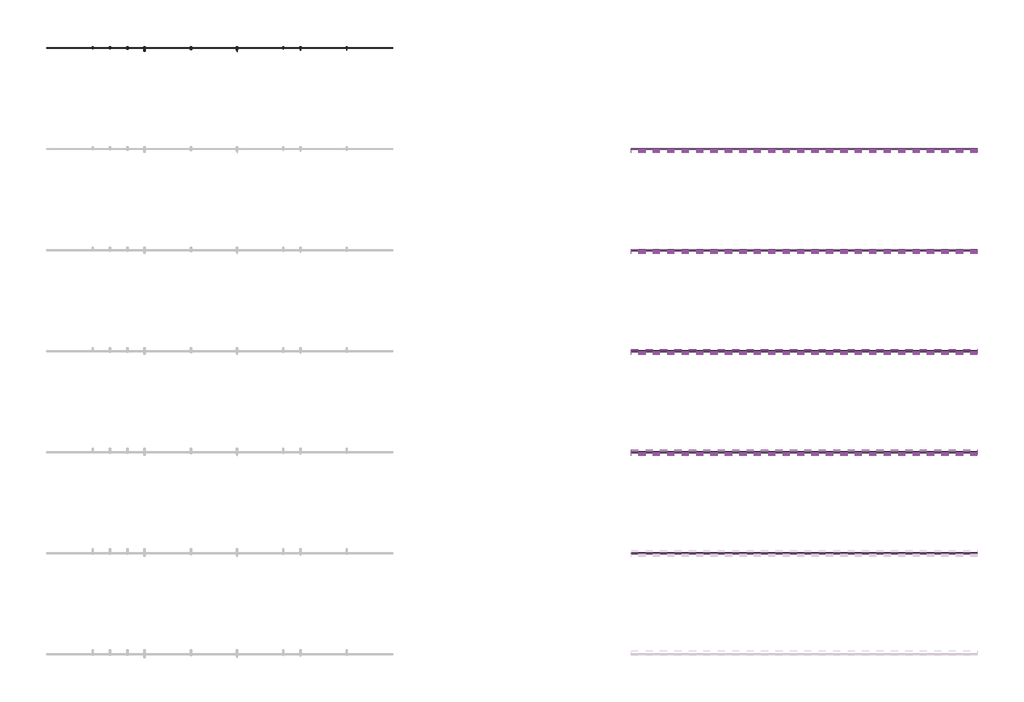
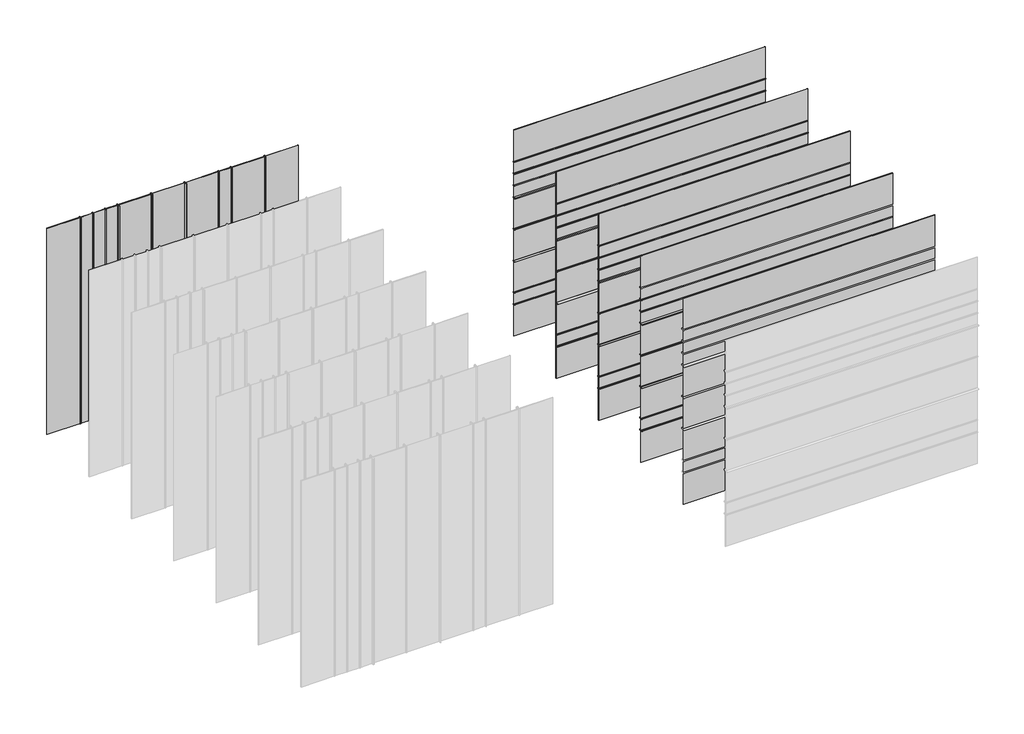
# One storey, part 4 of 4: 55 plates, 40 members.
"""IFC4 building model written with IfcOpenShell, lengths in millimetres."""

from ifc_helpers import new_model, si_unit, origin, place, context, project, spatial, transform, mapped, element, save
from components import rectangular_mullion_6b61430f, rectangular_mullion_28084158, rectangular_mullion_60bf5739, rectangular_mullion_a78560a7, rectangular_mullion_7672b1c6, rectangular_mullion_1ab9979a, rectangular_mullion_508c35ca, rectangular_mullion_6fd50402, rectangular_mullion_37283115, rectangular_mullion_c953b7b2, rectangular_mullion_8f5d7e34, rectangular_mullion_b8634e93, rectangular_mullion_21c236ed, rectangular_mullion_a2cae820, rectangular_mullion_59970314, rectangular_mullion_789dde8b, rectangular_mullion_764dd3d6, rectangular_mullion_9a702a02, rectangular_mullion_c56df970, rectangular_mullion_8414ca5e, rectangular_mullion_b691037a, rectangular_mullion_69cb2042, rectangular_mullion_3d3ca6bd, rectangular_mullion_6da18841, rectangular_mullion_dd002d8b, rectangular_mullion_8afb06d2, rectangular_mullion_d05109a3, rectangular_mullion_47334e2f, rectangular_mullion_0ad46ab6, rectangular_mullion_7b420ca9, rectangular_mullion_ec071061, rectangular_mullion_dfd6f06b, rectangular_mullion_7b030d2f, rectangular_mullion_5baca6db, rectangular_mullion_6baa7c06, rectangular_mullion_7da34c89, rectangular_mullion_f86160bf, rectangular_mullion_92fd8a44, rectangular_mullion_52d2da8f, system_panel_glazed_5a8f3fa4, system_panel_glazed_dbcdabc9, system_panel_glazed_78f67ebd, system_panel_glazed_138f9669, system_panel_glazed_1a993f0c, system_panel_glazed_b61b2489, system_panel_glazed_590bdfaf, system_panel_glazed_47dfef42, system_panel_glazed_745bbd44

model = new_model("IFC4")

# Units and contexts
model_context = context("Model", 3, world=origin())
ifc_project = project(units=[si_unit("LENGTHUNIT", "METRE", prefix="MILLI")], contexts=[model_context])

# Site, building, storey
site = spatial("IfcSite", under=ifc_project)
building = spatial("IfcBuilding", under=site)
storey = spatial("IfcBuildingStorey", under=building, Name="REY 01 - Overview Mullions", Elevation=0.0)

# Members
placement = place(None, origin())
rectangular_mullion_shape = rectangular_mullion_6b61430f(model_context)
element("IfcMember", 1, ObjectType="Rectangular Mullion : Reynaers_CW-50_Mullion-Transom_Vertical_41.5mm_Facecap-02A", at=placement, inside=storey, context=model_context, shape_type="MappedRepresentation", body=[
    mapped(rectangular_mullion_shape, transform((-14129.591144, 2399.6459989, 0.0), x_axis=(-1.0, 0.0, 0.0), y_axis=(0.0, 1.0, 0.0), z_axis=(0.0, 0.0, -1.0))),
])
rectangular_mullion_2_shape = rectangular_mullion_28084158(model_context)
element("IfcMember", 2, ObjectType="Rectangular Mullion : Reynaers_CW-50_Mullion-Transom_Vertical_41.5mm_Facecap-02B", at=placement, inside=storey, context=model_context, shape_type="MappedRepresentation", body=[
    mapped(rectangular_mullion_2_shape, transform((-13529.591144, 2399.6459989, 0.0), x_axis=(-1.0, 0.0, 0.0), y_axis=(0.0, 1.0, 0.0), z_axis=(0.0, 0.0, -1.0))),
])
rectangular_mullion_3_shape = rectangular_mullion_60bf5739(model_context)
element("IfcMember", 3, ObjectType="Rectangular Mullion : Reynaers_CW-50_Mullion-Transom_Vertical_41.5mm_Facecap-02C", at=placement, inside=storey, context=model_context, shape_type="MappedRepresentation", body=[
    mapped(rectangular_mullion_3_shape, transform((-12929.591144, 2399.6459989, 0.0), x_axis=(-1.0, 0.0, 0.0), y_axis=(0.0, 1.0, 0.0), z_axis=(0.0, 0.0, -1.0))),
])
rectangular_mullion_4_shape = rectangular_mullion_a78560a7(model_context)
element("IfcMember", 4, ObjectType="Rectangular Mullion : Reynaers_CW-50_Mullion-Transom_Vertical_41.5mm_Facecap-02D", at=placement, inside=storey, context=model_context, shape_type="MappedRepresentation", body=[
    mapped(rectangular_mullion_4_shape, transform((-12329.591144, 2399.6459989, 0.0), x_axis=(-1.0, 0.0, 0.0), y_axis=(0.0, 1.0, 0.0), z_axis=(0.0, 0.0, -1.0))),
])
rectangular_mullion_5_shape = rectangular_mullion_7672b1c6(model_context)
element("IfcMember", 5, ObjectType="Rectangular Mullion : Reynaers_CW-50_Mullion-Transom_Vertical_41.5mm_Facecap-03", at=placement, inside=storey, context=model_context, shape_type="MappedRepresentation", body=[
    mapped(rectangular_mullion_5_shape, transform((-10729.591144, 2399.6459989, 0.0), x_axis=(-1.0, 0.0, 0.0), y_axis=(0.0, 1.0, 0.0), z_axis=(0.0, 0.0, -1.0))),
])
rectangular_mullion_6_shape = rectangular_mullion_1ab9979a(model_context)
element("IfcMember", 6, ObjectType="Rectangular Mullion : Reynaers_CW-50_Mullion-Transom_Vertical_41.5mm_Facecap-05", at=placement, inside=storey, context=model_context, shape_type="MappedRepresentation", body=[
    mapped(rectangular_mullion_6_shape, transform((-9129.591144, 2399.6459989, 0.0), x_axis=(-1.0, 0.0, 0.0), y_axis=(0.0, 1.0, 0.0), z_axis=(0.0, 0.0, -1.0))),
])
rectangular_mullion_7_shape = rectangular_mullion_508c35ca(model_context)
element("IfcMember", 7, ObjectType="Rectangular Mullion : Reynaers_CW-50_Mullion-Transom_Vertical_41.5mm_Facecap-06A", at=placement, inside=storey, context=model_context, shape_type="MappedRepresentation", body=[
    mapped(rectangular_mullion_7_shape, transform((-7529.591144, 2399.6459989, 0.0), x_axis=(-1.0, 0.0, 0.0), y_axis=(0.0, 1.0, 0.0), z_axis=(0.0, 0.0, -1.0))),
])
rectangular_mullion_8_shape = rectangular_mullion_6fd50402(model_context)
element("IfcMember", 8, ObjectType="Rectangular Mullion : Reynaers_CW-50_Mullion-Transom_Vertical_41.5mm_Facecap-06B", at=placement, inside=storey, context=model_context, shape_type="MappedRepresentation", body=[
    mapped(rectangular_mullion_8_shape, transform((-6929.591144, 2399.6459989, 0.0), x_axis=(-1.0, 0.0, 0.0), y_axis=(0.0, 1.0, 0.0), z_axis=(0.0, 0.0, -1.0))),
])
element("IfcMember", 9, ObjectType="Rectangular Mullion : Reynaers_CW-50_Mullion-Transom_Vertical_41.5mm_Facecap-06B", at=placement, inside=storey, context=model_context, shape_type="MappedRepresentation", body=[
    mapped(rectangular_mullion_8_shape, transform((-5329.591144, 2399.6459989, 0.0), x_axis=(-1.0, 0.0, 0.0), y_axis=(0.0, 1.0, 0.0), z_axis=(0.0, 0.0, -1.0))),
])
rectangular_mullion_9_shape = rectangular_mullion_37283115(model_context)
element("IfcMember", 10, ObjectType="Rectangular Mullion : Reynaers_CW-50_Mullion-Transom_Horizontal_5mm_Facecap-02A", at=placement, inside=storey, context=model_context, shape_type="MappedRepresentation", body=[
    mapped(rectangular_mullion_9_shape, transform((4520.408856, -1100.3540011, 8800.0), x_axis=(0.0, 0.0, 1.0), y_axis=(0.0, 1.0, 0.0), z_axis=(-1.0, 0.0, 0.0))),
])
rectangular_mullion_10_shape = rectangular_mullion_c953b7b2(model_context)
element("IfcMember", 11, ObjectType="Rectangular Mullion : Reynaers_CW-50_Mullion-Transom_Horizontal_5mm_Facecap-02B", at=placement, inside=storey, context=model_context, shape_type="MappedRepresentation", body=[
    mapped(rectangular_mullion_10_shape, transform((4520.408856, -1100.3540011, 8200.0), x_axis=(0.0, 0.0, 1.0), y_axis=(0.0, 1.0, 0.0), z_axis=(-1.0, 0.0, 0.0))),
])
rectangular_mullion_11_shape = rectangular_mullion_8f5d7e34(model_context)
element("IfcMember", 12, ObjectType="Rectangular Mullion : Reynaers_CW-50_Mullion-Transom_Horizontal_5mm_Facecap-02C", at=placement, inside=storey, context=model_context, shape_type="MappedRepresentation", body=[
    mapped(rectangular_mullion_11_shape, transform((4520.408856, -1100.3540011, 7600.0), x_axis=(0.0, 0.0, 1.0), y_axis=(0.0, 1.0, 0.0), z_axis=(-1.0, 0.0, 0.0))),
])
rectangular_mullion_12_shape = rectangular_mullion_b8634e93(model_context)
element("IfcMember", 13, ObjectType="Rectangular Mullion : Reynaers_CW-50_Mullion-Transom_Horizontal_5mm_Facecap-02D", at=placement, inside=storey, context=model_context, shape_type="MappedRepresentation", body=[
    mapped(rectangular_mullion_12_shape, transform((4520.408856, -1100.3540011, 7000.0), x_axis=(0.0, 0.0, 1.0), y_axis=(0.0, 1.0, 0.0), z_axis=(-1.0, 0.0, 0.0))),
])
rectangular_mullion_13_shape = rectangular_mullion_21c236ed(model_context)
element("IfcMember", 14, ObjectType="Rectangular Mullion : Reynaers_CW-50_Mullion-Transom_Horizontal_23.9mm_Facecap-02A", at=placement, inside=storey, context=model_context, shape_type="MappedRepresentation", body=[
    mapped(rectangular_mullion_13_shape, transform((4520.408856, -4600.3540011, 8800.0), x_axis=(0.0, 0.0, 1.0), y_axis=(0.0, 1.0, 0.0), z_axis=(-1.0, 0.0, 0.0))),
])
rectangular_mullion_14_shape = rectangular_mullion_a2cae820(model_context)
element("IfcMember", 15, ObjectType="Rectangular Mullion : Reynaers_CW-50_Mullion-Transom_Horizontal_23.9mm_Facecap-02B", at=placement, inside=storey, context=model_context, shape_type="MappedRepresentation", body=[
    mapped(rectangular_mullion_14_shape, transform((4520.408856, -4600.3540011, 8200.0), x_axis=(0.0, 0.0, 1.0), y_axis=(0.0, 1.0, 0.0), z_axis=(-1.0, 0.0, 0.0))),
])
rectangular_mullion_15_shape = rectangular_mullion_59970314(model_context)
element("IfcMember", 16, ObjectType="Rectangular Mullion : Reynaers_CW-50_Mullion-Transom_Horizontal_23.9mm_Facecap-02C", at=placement, inside=storey, context=model_context, shape_type="MappedRepresentation", body=[
    mapped(rectangular_mullion_15_shape, transform((4520.408856, -4600.3540011, 7600.0), x_axis=(0.0, 0.0, 1.0), y_axis=(0.0, 1.0, 0.0), z_axis=(-1.0, 0.0, 0.0))),
])
rectangular_mullion_16_shape = rectangular_mullion_789dde8b(model_context)
element("IfcMember", 17, ObjectType="Rectangular Mullion : Reynaers_CW-50_Mullion-Transom_Horizontal_23.9mm_Facecap-02D", at=placement, inside=storey, context=model_context, shape_type="MappedRepresentation", body=[
    mapped(rectangular_mullion_16_shape, transform((4520.408856, -4600.3540011, 7000.0), x_axis=(0.0, 0.0, 1.0), y_axis=(0.0, 1.0, 0.0), z_axis=(-1.0, 0.0, 0.0))),
])
rectangular_mullion_17_shape = rectangular_mullion_764dd3d6(model_context)
element("IfcMember", 18, ObjectType="Rectangular Mullion : Reynaers_CW-50_Mullion-Transom_Horizontal_23.9mm_Facecap-06B", at=placement, inside=storey, context=model_context, shape_type="MappedRepresentation", body=[
    mapped(rectangular_mullion_17_shape, transform((4520.408856, -4600.3540011, 1600.0), x_axis=(0.0, 0.0, 1.0), y_axis=(0.0, 1.0, 0.0), z_axis=(-1.0, 0.0, 0.0))),
])
rectangular_mullion_18_shape = rectangular_mullion_9a702a02(model_context)
element("IfcMember", 19, ObjectType="Rectangular Mullion : Reynaers_CW-50_Mullion-Transom_Horizontal_23.9mm_Facecap-06A", at=placement, inside=storey, context=model_context, shape_type="MappedRepresentation", body=[
    mapped(rectangular_mullion_18_shape, transform((4520.408856, -4600.3540011, 2200.0), x_axis=(0.0, 0.0, 1.0), y_axis=(0.0, 1.0, 0.0), z_axis=(-1.0, 0.0, 0.0))),
])
rectangular_mullion_19_shape = rectangular_mullion_c56df970(model_context)
element("IfcMember", 20, ObjectType="Rectangular Mullion : Reynaers_CW-50_Mullion-Transom_Horizontal_23.9mm_Facecap-05", at=placement, inside=storey, context=model_context, shape_type="MappedRepresentation", body=[
    mapped(rectangular_mullion_19_shape, transform((4520.408856, -4600.3540011, 3800.0), x_axis=(0.0, 0.0, 1.0), y_axis=(0.0, 1.0, 0.0), z_axis=(-1.0, 0.0, 0.0))),
])
rectangular_mullion_20_shape = rectangular_mullion_8414ca5e(model_context)
element("IfcMember", 21, ObjectType="Rectangular Mullion : Reynaers_CW-50_Mullion-Transom_Horizontal_46.4mm_Facecap-02A", at=placement, inside=storey, context=model_context, shape_type="MappedRepresentation", body=[
    mapped(rectangular_mullion_20_shape, transform((4520.408856, -8100.3540011, 8800.0), x_axis=(0.0, 0.0, 1.0), y_axis=(0.0, 1.0, 0.0), z_axis=(-1.0, 0.0, 0.0))),
])
rectangular_mullion_21_shape = rectangular_mullion_b691037a(model_context)
element("IfcMember", 22, ObjectType="Rectangular Mullion : Reynaers_CW-50_Mullion-Transom_Horizontal_46.4mm_Facecap-02B", at=placement, inside=storey, context=model_context, shape_type="MappedRepresentation", body=[
    mapped(rectangular_mullion_21_shape, transform((4520.408856, -8100.3540011, 8200.0), x_axis=(0.0, 0.0, 1.0), y_axis=(0.0, 1.0, 0.0), z_axis=(-1.0, 0.0, 0.0))),
])
rectangular_mullion_22_shape = rectangular_mullion_69cb2042(model_context)
element("IfcMember", 23, ObjectType="Rectangular Mullion : Reynaers_CW-50_Mullion-Transom_Horizontal_46.4mm_Facecap-02C", at=placement, inside=storey, context=model_context, shape_type="MappedRepresentation", body=[
    mapped(rectangular_mullion_22_shape, transform((4520.408856, -8100.3540011, 7600.0), x_axis=(0.0, 0.0, 1.0), y_axis=(0.0, 1.0, 0.0), z_axis=(-1.0, 0.0, 0.0))),
])
rectangular_mullion_23_shape = rectangular_mullion_3d3ca6bd(model_context)
element("IfcMember", 24, ObjectType="Rectangular Mullion : Reynaers_CW-50_Mullion-Transom_Horizontal_46.4mm_Facecap-02D", at=placement, inside=storey, context=model_context, shape_type="MappedRepresentation", body=[
    mapped(rectangular_mullion_23_shape, transform((4520.408856, -8100.3540011, 7000.0), x_axis=(0.0, 0.0, 1.0), y_axis=(0.0, 1.0, 0.0), z_axis=(-1.0, 0.0, 0.0))),
])
rectangular_mullion_24_shape = rectangular_mullion_6da18841(model_context)
element("IfcMember", 25, ObjectType="Rectangular Mullion : Reynaers_CW-50_Mullion-Transom_Horizontal_46.4mm_Facecap-05", at=placement, inside=storey, context=model_context, shape_type="MappedRepresentation", body=[
    mapped(rectangular_mullion_24_shape, transform((4520.408856, -8100.3540011, 3800.0), x_axis=(0.0, 0.0, 1.0), y_axis=(0.0, 1.0, 0.0), z_axis=(-1.0, 0.0, 0.0))),
])
rectangular_mullion_25_shape = rectangular_mullion_dd002d8b(model_context)
element("IfcMember", 26, ObjectType="Rectangular Mullion : Reynaers_CW-50_Mullion-Transom_Horizontal_46.4mm_Facecap-06A", at=placement, inside=storey, context=model_context, shape_type="MappedRepresentation", body=[
    mapped(rectangular_mullion_25_shape, transform((4520.408856, -8100.3540011, 2200.0), x_axis=(0.0, 0.0, 1.0), y_axis=(0.0, 1.0, 0.0), z_axis=(-1.0, 0.0, 0.0))),
])
rectangular_mullion_26_shape = rectangular_mullion_8afb06d2(model_context)
element("IfcMember", 27, ObjectType="Rectangular Mullion : Reynaers_CW-50_Mullion-Transom_Horizontal_46.4mm_Facecap-06B", at=placement, inside=storey, context=model_context, shape_type="MappedRepresentation", body=[
    mapped(rectangular_mullion_26_shape, transform((4520.408856, -8100.3540011, 1600.0), x_axis=(0.0, 0.0, 1.0), y_axis=(0.0, 1.0, 0.0), z_axis=(-1.0, 0.0, 0.0))),
])
rectangular_mullion_27_shape = rectangular_mullion_d05109a3(model_context)
element("IfcMember", 28, ObjectType="Rectangular Mullion : Reynaers_CW-50_Mullion-Transom_Horizontal_67.4mm_Facecap-02B", at=placement, inside=storey, context=model_context, shape_type="MappedRepresentation", body=[
    mapped(rectangular_mullion_27_shape, transform((4520.408856, -11600.3540011, 8200.0), x_axis=(0.0, 0.0, 1.0), y_axis=(0.0, 1.0, 0.0), z_axis=(-1.0, 0.0, 0.0))),
])
rectangular_mullion_28_shape = rectangular_mullion_47334e2f(model_context)
element("IfcMember", 29, ObjectType="Rectangular Mullion : Reynaers_CW-50_Mullion-Transom_Horizontal_67.4mm_Facecap-02C", at=placement, inside=storey, context=model_context, shape_type="MappedRepresentation", body=[
    mapped(rectangular_mullion_28_shape, transform((4520.408856, -11600.3540011, 7600.0), x_axis=(0.0, 0.0, 1.0), y_axis=(0.0, 1.0, 0.0), z_axis=(-1.0, 0.0, 0.0))),
])
rectangular_mullion_29_shape = rectangular_mullion_0ad46ab6(model_context)
element("IfcMember", 30, ObjectType="Rectangular Mullion : Reynaers_CW-50_Mullion-Transom_Horizontal_67.4mm_Facecap-02D", at=placement, inside=storey, context=model_context, shape_type="MappedRepresentation", body=[
    mapped(rectangular_mullion_29_shape, transform((4520.408856, -11600.3540011, 7000.0), x_axis=(0.0, 0.0, 1.0), y_axis=(0.0, 1.0, 0.0), z_axis=(-1.0, 0.0, 0.0))),
])
rectangular_mullion_30_shape = rectangular_mullion_7b420ca9(model_context)
element("IfcMember", 31, ObjectType="Rectangular Mullion : Reynaers_CW-50_Mullion-Transom_Horizontal_67.4mm_Facecap-05", at=placement, inside=storey, context=model_context, shape_type="MappedRepresentation", body=[
    mapped(rectangular_mullion_30_shape, transform((4520.408856, -11600.3540011, 3800.0), x_axis=(0.0, 0.0, 1.0), y_axis=(0.0, 1.0, 0.0), z_axis=(-1.0, 0.0, 0.0))),
])
rectangular_mullion_31_shape = rectangular_mullion_ec071061(model_context)
element("IfcMember", 32, ObjectType="Rectangular Mullion : Reynaers_CW-50_Mullion-Transom_Horizontal_67.4mm_Facecap-06A", at=placement, inside=storey, context=model_context, shape_type="MappedRepresentation", body=[
    mapped(rectangular_mullion_31_shape, transform((4520.408856, -11600.3540011, 2200.0), x_axis=(0.0, 0.0, 1.0), y_axis=(0.0, 1.0, 0.0), z_axis=(-1.0, 0.0, 0.0))),
])
rectangular_mullion_32_shape = rectangular_mullion_dfd6f06b(model_context)
element("IfcMember", 33, ObjectType="Rectangular Mullion : Reynaers_CW-50_Mullion-Transom_Horizontal_67.4mm_Facecap-06B", at=placement, inside=storey, context=model_context, shape_type="MappedRepresentation", body=[
    mapped(rectangular_mullion_32_shape, transform((4520.408856, -11600.3540011, 1600.0), x_axis=(0.0, 0.0, 1.0), y_axis=(0.0, 1.0, 0.0), z_axis=(-1.0, 0.0, 0.0))),
])
rectangular_mullion_33_shape = rectangular_mullion_7b030d2f(model_context)
element("IfcMember", 34, ObjectType="Rectangular Mullion : Reynaers_CW-50_Mullion-Transom_Horizontal_5mm_Facecap-05", at=placement, inside=storey, context=model_context, shape_type="MappedRepresentation", body=[
    mapped(rectangular_mullion_33_shape, transform((4520.408856, -1100.3540011, 3800.0), x_axis=(0.0, 0.0, 1.0), y_axis=(0.0, 1.0, 0.0), z_axis=(-1.0, 0.0, 0.0))),
])
rectangular_mullion_34_shape = rectangular_mullion_5baca6db(model_context)
element("IfcMember", 35, ObjectType="Rectangular Mullion : Reynaers_CW-50_Mullion-Transom_Horizontal_5mm_Facecap-06A", at=placement, inside=storey, context=model_context, shape_type="MappedRepresentation", body=[
    mapped(rectangular_mullion_34_shape, transform((4520.408856, -1100.3540011, 2200.0), x_axis=(0.0, 0.0, 1.0), y_axis=(0.0, 1.0, 0.0), z_axis=(-1.0, 0.0, 0.0))),
])
rectangular_mullion_35_shape = rectangular_mullion_6baa7c06(model_context)
element("IfcMember", 36, ObjectType="Rectangular Mullion : Reynaers_CW-50_Mullion-Transom_Horizontal_5mm_Facecap-06B", at=placement, inside=storey, context=model_context, shape_type="MappedRepresentation", body=[
    mapped(rectangular_mullion_35_shape, transform((4520.408856, -1100.3540011, 1600.0), x_axis=(0.0, 0.0, 1.0), y_axis=(0.0, 1.0, 0.0), z_axis=(-1.0, 0.0, 0.0))),
])
rectangular_mullion_36_shape = rectangular_mullion_7da34c89(model_context)
element("IfcMember", 37, ObjectType="Rectangular Mullion : Reynaers_CW-50_Mullion-Transom_Horizontal_5mm_Facecap-03", at=placement, inside=storey, context=model_context, shape_type="MappedRepresentation", body=[
    mapped(rectangular_mullion_36_shape, transform((4520.408856, -1100.3540011, 5400.0), x_axis=(0.0, 0.0, 1.0), y_axis=(0.0, 1.0, 0.0), z_axis=(-1.0, 0.0, 0.0))),
])
rectangular_mullion_37_shape = rectangular_mullion_f86160bf(model_context)
element("IfcMember", 38, ObjectType="Rectangular Mullion : Reynaers_CW-50_Mullion-Transom_Horizontal_23.9mm_Facecap-03", at=placement, inside=storey, context=model_context, shape_type="MappedRepresentation", body=[
    mapped(rectangular_mullion_37_shape, transform((4520.408856, -4600.3540011, 5400.0), x_axis=(0.0, 0.0, 1.0), y_axis=(0.0, 1.0, 0.0), z_axis=(-1.0, 0.0, 0.0))),
])
rectangular_mullion_38_shape = rectangular_mullion_92fd8a44(model_context)
element("IfcMember", 39, ObjectType="Rectangular Mullion : Reynaers_CW-50_Mullion-Transom_Horizontal_46.4mm_Facecap-03", at=placement, inside=storey, context=model_context, shape_type="MappedRepresentation", body=[
    mapped(rectangular_mullion_38_shape, transform((4520.408856, -8100.3540011, 5400.0), x_axis=(0.0, 0.0, 1.0), y_axis=(0.0, 1.0, 0.0), z_axis=(-1.0, 0.0, 0.0))),
])
rectangular_mullion_39_shape = rectangular_mullion_52d2da8f(model_context)
element("IfcMember", 40, ObjectType="Rectangular Mullion : Reynaers_CW-50_Mullion-Transom_Horizontal_67.4mm_Facecap-03", at=placement, inside=storey, context=model_context, shape_type="MappedRepresentation", body=[
    mapped(rectangular_mullion_39_shape, transform((4520.408856, -11600.3540011, 5400.0), x_axis=(0.0, 0.0, 1.0), y_axis=(0.0, 1.0, 0.0), z_axis=(-1.0, 0.0, 0.0))),
])

# Plates
system_panel_glazed_shape = system_panel_glazed_5a8f3fa4(model_context)
element("IfcPlate", 41, ObjectType="System Panel : Glazed", at=placement, inside=storey, context=model_context, shape_type="MappedRepresentation", body=[
    mapped(system_panel_glazed_shape, transform((-4527.140941, 2399.6459989, 0.0), x_axis=(-1.0, 0.0, 0.0), y_axis=(0.0, -1.0, 0.0), z_axis=(0.0, 0.0, 1.0))),
])
system_panel_glazed_2_shape = system_panel_glazed_dbcdabc9(model_context)
element("IfcPlate", 42, ObjectType="System Panel : Glazed", at=placement, inside=storey, context=model_context, shape_type="MappedRepresentation", body=[
    mapped(system_panel_glazed_2_shape, transform((-14932.240941, 2399.6459989, 0.0), x_axis=(-1.0, 0.0, 0.0), y_axis=(0.0, -1.0, 0.0), z_axis=(0.0, 0.0, 1.0))),
])
system_panel_glazed_3_shape = system_panel_glazed_78f67ebd(model_context)
element("IfcPlate", 43, ObjectType="System Panel : Glazed", at=placement, inside=storey, context=model_context, shape_type="MappedRepresentation", body=[
    mapped(system_panel_glazed_3_shape, transform((-6129.7907381, 2399.6459989, 0.0), x_axis=(-1.0, 0.0, 0.0), y_axis=(0.0, -1.0, 0.0), z_axis=(0.0, 0.0, 1.0))),
])
element("IfcPlate", 44, ObjectType="System Panel : Glazed", at=placement, inside=storey, context=model_context, shape_type="MappedRepresentation", body=[
    mapped(system_panel_glazed_3_shape, transform((-8329.7907381, 2399.6459989, 0.0), x_axis=(-1.0, 0.0, 0.0), y_axis=(0.0, -1.0, 0.0), z_axis=(0.0, 0.0, 1.0))),
])
element("IfcPlate", 45, ObjectType="System Panel : Glazed", at=placement, inside=storey, context=model_context, shape_type="MappedRepresentation", body=[
    mapped(system_panel_glazed_3_shape, transform((-9929.7907381, 2399.6459989, 0.0), x_axis=(-1.0, 0.0, 0.0), y_axis=(0.0, -1.0, 0.0), z_axis=(0.0, 0.0, 1.0))),
])
element("IfcPlate", 46, ObjectType="System Panel : Glazed", at=placement, inside=storey, context=model_context, shape_type="MappedRepresentation", body=[
    mapped(system_panel_glazed_3_shape, transform((-11529.7907381, 2399.6459989, 0.0), x_axis=(-1.0, 0.0, 0.0), y_axis=(0.0, -1.0, 0.0), z_axis=(0.0, 0.0, 1.0))),
])
system_panel_glazed_4_shape = system_panel_glazed_138f9669(model_context)
element("IfcPlate", 47, ObjectType="System Panel : Glazed", at=placement, inside=storey, context=model_context, shape_type="MappedRepresentation", body=[
    mapped(system_panel_glazed_4_shape, transform((-7229.7907381, 2399.6459989, 0.0), x_axis=(-1.0, 0.0, 0.0), y_axis=(0.0, -1.0, 0.0), z_axis=(0.0, 0.0, 1.0))),
])
element("IfcPlate", 48, ObjectType="System Panel : Glazed", at=placement, inside=storey, context=model_context, shape_type="MappedRepresentation", body=[
    mapped(system_panel_glazed_4_shape, transform((-13829.7907381, 2399.6459989, 0.0), x_axis=(-1.0, 0.0, 0.0), y_axis=(0.0, -1.0, 0.0), z_axis=(0.0, 0.0, 1.0))),
])
element("IfcPlate", 49, ObjectType="System Panel : Glazed", at=placement, inside=storey, context=model_context, shape_type="MappedRepresentation", body=[
    mapped(system_panel_glazed_4_shape, transform((-13229.7907381, 2399.6459989, 0.0), x_axis=(-1.0, 0.0, 0.0), y_axis=(0.0, -1.0, 0.0), z_axis=(0.0, 0.0, 1.0))),
])
element("IfcPlate", 50, ObjectType="System Panel : Glazed", at=placement, inside=storey, context=model_context, shape_type="MappedRepresentation", body=[
    mapped(system_panel_glazed_4_shape, transform((-12629.7907381, 2399.6459989, 0.0), x_axis=(-1.0, 0.0, 0.0), y_axis=(0.0, -1.0, 0.0), z_axis=(0.0, 0.0, 1.0))),
])
system_panel_glazed_5_shape = system_panel_glazed_1a993f0c(model_context)
element("IfcPlate", 51, ObjectType="System Panel : Glazed", at=placement, inside=storey, context=model_context, shape_type="MappedRepresentation", body=[
    mapped(system_panel_glazed_5_shape, transform((10520.408856, -15100.3540011, 8805.2995941), x_axis=(-1.0, 0.0, 0.0), y_axis=(0.0, -1.0, 0.0), z_axis=(0.0, 0.0, 1.0))),
])
element("IfcPlate", 52, ObjectType="System Panel : Glazed", at=placement, inside=storey, context=model_context, shape_type="MappedRepresentation", body=[
    mapped(system_panel_glazed_5_shape, transform((10520.408856, -11600.3540011, 8805.2995941), x_axis=(-1.0, 0.0, 0.0), y_axis=(0.0, -1.0, 0.0), z_axis=(0.0, 0.0, 1.0))),
])
element("IfcPlate", 53, ObjectType="System Panel : Glazed", at=placement, inside=storey, context=model_context, shape_type="MappedRepresentation", body=[
    mapped(system_panel_glazed_5_shape, transform((10520.408856, -8100.3540011, 8805.2995941), x_axis=(-1.0, 0.0, 0.0), y_axis=(0.0, -1.0, 0.0), z_axis=(0.0, 0.0, 1.0))),
])
element("IfcPlate", 54, ObjectType="System Panel : Glazed", at=placement, inside=storey, context=model_context, shape_type="MappedRepresentation", body=[
    mapped(system_panel_glazed_5_shape, transform((10520.408856, -4600.3540011, 8805.2995941), x_axis=(-1.0, 0.0, 0.0), y_axis=(0.0, -1.0, 0.0), z_axis=(0.0, 0.0, 1.0))),
])
element("IfcPlate", 55, ObjectType="System Panel : Glazed", at=placement, inside=storey, context=model_context, shape_type="MappedRepresentation", body=[
    mapped(system_panel_glazed_5_shape, transform((10520.408856, -1100.3540011, 8805.2995941), x_axis=(-1.0, 0.0, 0.0), y_axis=(0.0, -1.0, 0.0), z_axis=(0.0, 0.0, 1.0))),
])
system_panel_glazed_6_shape = system_panel_glazed_b61b2489(model_context)
element("IfcPlate", 56, ObjectType="System Panel : Glazed", at=placement, inside=storey, context=model_context, shape_type="MappedRepresentation", body=[
    mapped(system_panel_glazed_6_shape, transform((10520.408856, -15100.3540011, 1605.2995941), x_axis=(-1.0, 0.0, 0.0), y_axis=(0.0, -1.0, 0.0), z_axis=(0.0, 0.0, 1.0))),
])
element("IfcPlate", 57, ObjectType="System Panel : Glazed", at=placement, inside=storey, context=model_context, shape_type="MappedRepresentation", body=[
    mapped(system_panel_glazed_6_shape, transform((10520.408856, -15100.3540011, 7005.2995941), x_axis=(-1.0, 0.0, 0.0), y_axis=(0.0, -1.0, 0.0), z_axis=(0.0, 0.0, 1.0))),
])
element("IfcPlate", 58, ObjectType="System Panel : Glazed", at=placement, inside=storey, context=model_context, shape_type="MappedRepresentation", body=[
    mapped(system_panel_glazed_6_shape, transform((10520.408856, -15100.3540011, 7605.2995941), x_axis=(-1.0, 0.0, 0.0), y_axis=(0.0, -1.0, 0.0), z_axis=(0.0, 0.0, 1.0))),
])
element("IfcPlate", 59, ObjectType="System Panel : Glazed", at=placement, inside=storey, context=model_context, shape_type="MappedRepresentation", body=[
    mapped(system_panel_glazed_6_shape, transform((10520.408856, -15100.3540011, 8205.2995941), x_axis=(-1.0, 0.0, 0.0), y_axis=(0.0, -1.0, 0.0), z_axis=(0.0, 0.0, 1.0))),
])
element("IfcPlate", 60, ObjectType="System Panel : Glazed", at=placement, inside=storey, context=model_context, shape_type="MappedRepresentation", body=[
    mapped(system_panel_glazed_6_shape, transform((10520.408856, -11600.3540011, 1605.2995941), x_axis=(-1.0, 0.0, 0.0), y_axis=(0.0, -1.0, 0.0), z_axis=(0.0, 0.0, 1.0))),
])
element("IfcPlate", 61, ObjectType="System Panel : Glazed", at=placement, inside=storey, context=model_context, shape_type="MappedRepresentation", body=[
    mapped(system_panel_glazed_6_shape, transform((10520.408856, -11600.3540011, 7005.2995941), x_axis=(-1.0, 0.0, 0.0), y_axis=(0.0, -1.0, 0.0), z_axis=(0.0, 0.0, 1.0))),
])
element("IfcPlate", 62, ObjectType="System Panel : Glazed", at=placement, inside=storey, context=model_context, shape_type="MappedRepresentation", body=[
    mapped(system_panel_glazed_6_shape, transform((10520.408856, -11600.3540011, 7605.2995941), x_axis=(-1.0, 0.0, 0.0), y_axis=(0.0, -1.0, 0.0), z_axis=(0.0, 0.0, 1.0))),
])
element("IfcPlate", 63, ObjectType="System Panel : Glazed", at=placement, inside=storey, context=model_context, shape_type="MappedRepresentation", body=[
    mapped(system_panel_glazed_6_shape, transform((10520.408856, -11600.3540011, 8205.2995941), x_axis=(-1.0, 0.0, 0.0), y_axis=(0.0, -1.0, 0.0), z_axis=(0.0, 0.0, 1.0))),
])
element("IfcPlate", 64, ObjectType="System Panel : Glazed", at=placement, inside=storey, context=model_context, shape_type="MappedRepresentation", body=[
    mapped(system_panel_glazed_6_shape, transform((10520.408856, -8100.3540011, 1605.2995941), x_axis=(-1.0, 0.0, 0.0), y_axis=(0.0, -1.0, 0.0), z_axis=(0.0, 0.0, 1.0))),
])
element("IfcPlate", 65, ObjectType="System Panel : Glazed", at=placement, inside=storey, context=model_context, shape_type="MappedRepresentation", body=[
    mapped(system_panel_glazed_6_shape, transform((10520.408856, -8100.3540011, 7005.2995941), x_axis=(-1.0, 0.0, 0.0), y_axis=(0.0, -1.0, 0.0), z_axis=(0.0, 0.0, 1.0))),
])
element("IfcPlate", 66, ObjectType="System Panel : Glazed", at=placement, inside=storey, context=model_context, shape_type="MappedRepresentation", body=[
    mapped(system_panel_glazed_6_shape, transform((10520.408856, -8100.3540011, 7605.2995941), x_axis=(-1.0, 0.0, 0.0), y_axis=(0.0, -1.0, 0.0), z_axis=(0.0, 0.0, 1.0))),
])
element("IfcPlate", 67, ObjectType="System Panel : Glazed", at=placement, inside=storey, context=model_context, shape_type="MappedRepresentation", body=[
    mapped(system_panel_glazed_6_shape, transform((10520.408856, -8100.3540011, 8205.2995941), x_axis=(-1.0, 0.0, 0.0), y_axis=(0.0, -1.0, 0.0), z_axis=(0.0, 0.0, 1.0))),
])
element("IfcPlate", 68, ObjectType="System Panel : Glazed", at=placement, inside=storey, context=model_context, shape_type="MappedRepresentation", body=[
    mapped(system_panel_glazed_6_shape, transform((10520.408856, -4600.3540011, 1605.2995941), x_axis=(-1.0, 0.0, 0.0), y_axis=(0.0, -1.0, 0.0), z_axis=(0.0, 0.0, 1.0))),
])
element("IfcPlate", 69, ObjectType="System Panel : Glazed", at=placement, inside=storey, context=model_context, shape_type="MappedRepresentation", body=[
    mapped(system_panel_glazed_6_shape, transform((10520.408856, -4600.3540011, 7005.2995941), x_axis=(-1.0, 0.0, 0.0), y_axis=(0.0, -1.0, 0.0), z_axis=(0.0, 0.0, 1.0))),
])
element("IfcPlate", 70, ObjectType="System Panel : Glazed", at=placement, inside=storey, context=model_context, shape_type="MappedRepresentation", body=[
    mapped(system_panel_glazed_6_shape, transform((10520.408856, -4600.3540011, 7605.2995941), x_axis=(-1.0, 0.0, 0.0), y_axis=(0.0, -1.0, 0.0), z_axis=(0.0, 0.0, 1.0))),
])
element("IfcPlate", 71, ObjectType="System Panel : Glazed", at=placement, inside=storey, context=model_context, shape_type="MappedRepresentation", body=[
    mapped(system_panel_glazed_6_shape, transform((10520.408856, -4600.3540011, 8205.2995941), x_axis=(-1.0, 0.0, 0.0), y_axis=(0.0, -1.0, 0.0), z_axis=(0.0, 0.0, 1.0))),
])
element("IfcPlate", 72, ObjectType="System Panel : Glazed", at=placement, inside=storey, context=model_context, shape_type="MappedRepresentation", body=[
    mapped(system_panel_glazed_6_shape, transform((10520.408856, -1100.3540011, 1605.2995941), x_axis=(-1.0, 0.0, 0.0), y_axis=(0.0, -1.0, 0.0), z_axis=(0.0, 0.0, 1.0))),
])
element("IfcPlate", 73, ObjectType="System Panel : Glazed", at=placement, inside=storey, context=model_context, shape_type="MappedRepresentation", body=[
    mapped(system_panel_glazed_6_shape, transform((10520.408856, -1100.3540011, 7005.2995941), x_axis=(-1.0, 0.0, 0.0), y_axis=(0.0, -1.0, 0.0), z_axis=(0.0, 0.0, 1.0))),
])
element("IfcPlate", 74, ObjectType="System Panel : Glazed", at=placement, inside=storey, context=model_context, shape_type="MappedRepresentation", body=[
    mapped(system_panel_glazed_6_shape, transform((10520.408856, -1100.3540011, 7605.2995941), x_axis=(-1.0, 0.0, 0.0), y_axis=(0.0, -1.0, 0.0), z_axis=(0.0, 0.0, 1.0))),
])
element("IfcPlate", 75, ObjectType="System Panel : Glazed", at=placement, inside=storey, context=model_context, shape_type="MappedRepresentation", body=[
    mapped(system_panel_glazed_6_shape, transform((10520.408856, -1100.3540011, 8205.2995941), x_axis=(-1.0, 0.0, 0.0), y_axis=(0.0, -1.0, 0.0), z_axis=(0.0, 0.0, 1.0))),
])
system_panel_glazed_7_shape = system_panel_glazed_590bdfaf(model_context)
element("IfcPlate", 76, ObjectType="System Panel : Glazed", at=placement, inside=storey, context=model_context, shape_type="MappedRepresentation", body=[
    mapped(system_panel_glazed_7_shape, transform((10520.408856, -15100.3540011, 0.0), x_axis=(-1.0, 0.0, 0.0), y_axis=(0.0, -1.0, 0.0), z_axis=(0.0, 0.0, 1.0))),
])
element("IfcPlate", 77, ObjectType="System Panel : Glazed", at=placement, inside=storey, context=model_context, shape_type="MappedRepresentation", body=[
    mapped(system_panel_glazed_7_shape, transform((10520.408856, -11600.3540011, 0.0), x_axis=(-1.0, 0.0, 0.0), y_axis=(0.0, -1.0, 0.0), z_axis=(0.0, 0.0, 1.0))),
])
element("IfcPlate", 78, ObjectType="System Panel : Glazed", at=placement, inside=storey, context=model_context, shape_type="MappedRepresentation", body=[
    mapped(system_panel_glazed_7_shape, transform((10520.408856, -8100.3540011, 0.0), x_axis=(-1.0, 0.0, 0.0), y_axis=(0.0, -1.0, 0.0), z_axis=(0.0, 0.0, 1.0))),
])
element("IfcPlate", 79, ObjectType="System Panel : Glazed", at=placement, inside=storey, context=model_context, shape_type="MappedRepresentation", body=[
    mapped(system_panel_glazed_7_shape, transform((10520.408856, -4600.3540011, 0.0), x_axis=(-1.0, 0.0, 0.0), y_axis=(0.0, -1.0, 0.0), z_axis=(0.0, 0.0, 1.0))),
])
element("IfcPlate", 80, ObjectType="System Panel : Glazed", at=placement, inside=storey, context=model_context, shape_type="MappedRepresentation", body=[
    mapped(system_panel_glazed_7_shape, transform((10520.408856, -1100.3540011, 0.0), x_axis=(-1.0, 0.0, 0.0), y_axis=(0.0, -1.0, 0.0), z_axis=(0.0, 0.0, 1.0))),
])
system_panel_glazed_8_shape = system_panel_glazed_47dfef42(model_context)
element("IfcPlate", 81, ObjectType="System Panel : Glazed", at=placement, inside=storey, context=model_context, shape_type="MappedRepresentation", body=[
    mapped(system_panel_glazed_8_shape, transform((10520.408856, -15100.3540011, 2205.2995941), x_axis=(-1.0, 0.0, 0.0), y_axis=(0.0, -1.0, 0.0), z_axis=(0.0, 0.0, 1.0))),
])
element("IfcPlate", 82, ObjectType="System Panel : Glazed", at=placement, inside=storey, context=model_context, shape_type="MappedRepresentation", body=[
    mapped(system_panel_glazed_8_shape, transform((10520.408856, -11600.3540011, 2205.2995941), x_axis=(-1.0, 0.0, 0.0), y_axis=(0.0, -1.0, 0.0), z_axis=(0.0, 0.0, 1.0))),
])
element("IfcPlate", 83, ObjectType="System Panel : Glazed", at=placement, inside=storey, context=model_context, shape_type="MappedRepresentation", body=[
    mapped(system_panel_glazed_8_shape, transform((10520.408856, -8100.3540011, 2205.2995941), x_axis=(-1.0, 0.0, 0.0), y_axis=(0.0, -1.0, 0.0), z_axis=(0.0, 0.0, 1.0))),
])
element("IfcPlate", 84, ObjectType="System Panel : Glazed", at=placement, inside=storey, context=model_context, shape_type="MappedRepresentation", body=[
    mapped(system_panel_glazed_8_shape, transform((10520.408856, -4600.3540011, 2205.2995941), x_axis=(-1.0, 0.0, 0.0), y_axis=(0.0, -1.0, 0.0), z_axis=(0.0, 0.0, 1.0))),
])
element("IfcPlate", 85, ObjectType="System Panel : Glazed", at=placement, inside=storey, context=model_context, shape_type="MappedRepresentation", body=[
    mapped(system_panel_glazed_8_shape, transform((10520.408856, -1100.3540011, 2205.2995941), x_axis=(-1.0, 0.0, 0.0), y_axis=(0.0, -1.0, 0.0), z_axis=(0.0, 0.0, 1.0))),
])
system_panel_glazed_9_shape = system_panel_glazed_745bbd44(model_context)
element("IfcPlate", 86, ObjectType="System Panel : Glazed", at=placement, inside=storey, context=model_context, shape_type="MappedRepresentation", body=[
    mapped(system_panel_glazed_9_shape, transform((10520.408856, -15100.3540011, 5404.9004059), x_axis=(-1.0, 0.0, 0.0), y_axis=(0.0, -1.0, 0.0), z_axis=(0.0, 0.0, 1.0))),
])
element("IfcPlate", 87, ObjectType="System Panel : Glazed", at=placement, inside=storey, context=model_context, shape_type="MappedRepresentation", body=[
    mapped(system_panel_glazed_9_shape, transform((10520.408856, -15100.3540011, 3804.9004059), x_axis=(-1.0, 0.0, 0.0), y_axis=(0.0, -1.0, 0.0), z_axis=(0.0, 0.0, 1.0))),
])
element("IfcPlate", 88, ObjectType="System Panel : Glazed", at=placement, inside=storey, context=model_context, shape_type="MappedRepresentation", body=[
    mapped(system_panel_glazed_9_shape, transform((10520.408856, -11600.3540011, 5404.9004059), x_axis=(-1.0, 0.0, 0.0), y_axis=(0.0, -1.0, 0.0), z_axis=(0.0, 0.0, 1.0))),
])
element("IfcPlate", 89, ObjectType="System Panel : Glazed", at=placement, inside=storey, context=model_context, shape_type="MappedRepresentation", body=[
    mapped(system_panel_glazed_9_shape, transform((10520.408856, -11600.3540011, 3804.9004059), x_axis=(-1.0, 0.0, 0.0), y_axis=(0.0, -1.0, 0.0), z_axis=(0.0, 0.0, 1.0))),
])
element("IfcPlate", 90, ObjectType="System Panel : Glazed", at=placement, inside=storey, context=model_context, shape_type="MappedRepresentation", body=[
    mapped(system_panel_glazed_9_shape, transform((10520.408856, -8100.3540011, 5404.9004059), x_axis=(-1.0, 0.0, 0.0), y_axis=(0.0, -1.0, 0.0), z_axis=(0.0, 0.0, 1.0))),
])
element("IfcPlate", 91, ObjectType="System Panel : Glazed", at=placement, inside=storey, context=model_context, shape_type="MappedRepresentation", body=[
    mapped(system_panel_glazed_9_shape, transform((10520.408856, -8100.3540011, 3804.9004059), x_axis=(-1.0, 0.0, 0.0), y_axis=(0.0, -1.0, 0.0), z_axis=(0.0, 0.0, 1.0))),
])
element("IfcPlate", 92, ObjectType="System Panel : Glazed", at=placement, inside=storey, context=model_context, shape_type="MappedRepresentation", body=[
    mapped(system_panel_glazed_9_shape, transform((10520.408856, -4600.3540011, 5404.9004059), x_axis=(-1.0, 0.0, 0.0), y_axis=(0.0, -1.0, 0.0), z_axis=(0.0, 0.0, 1.0))),
])
element("IfcPlate", 93, ObjectType="System Panel : Glazed", at=placement, inside=storey, context=model_context, shape_type="MappedRepresentation", body=[
    mapped(system_panel_glazed_9_shape, transform((10520.408856, -4600.3540011, 3804.9004059), x_axis=(-1.0, 0.0, 0.0), y_axis=(0.0, -1.0, 0.0), z_axis=(0.0, 0.0, 1.0))),
])
element("IfcPlate", 94, ObjectType="System Panel : Glazed", at=placement, inside=storey, context=model_context, shape_type="MappedRepresentation", body=[
    mapped(system_panel_glazed_9_shape, transform((10520.408856, -1100.3540011, 5404.9004059), x_axis=(-1.0, 0.0, 0.0), y_axis=(0.0, -1.0, 0.0), z_axis=(0.0, 0.0, 1.0))),
])
element("IfcPlate", 95, ObjectType="System Panel : Glazed", at=placement, inside=storey, context=model_context, shape_type="MappedRepresentation", body=[
    mapped(system_panel_glazed_9_shape, transform((10520.408856, -1100.3540011, 3804.9004059), x_axis=(-1.0, 0.0, 0.0), y_axis=(0.0, -1.0, 0.0), z_axis=(0.0, 0.0, 1.0))),
])

save(model, "model.ifc")
